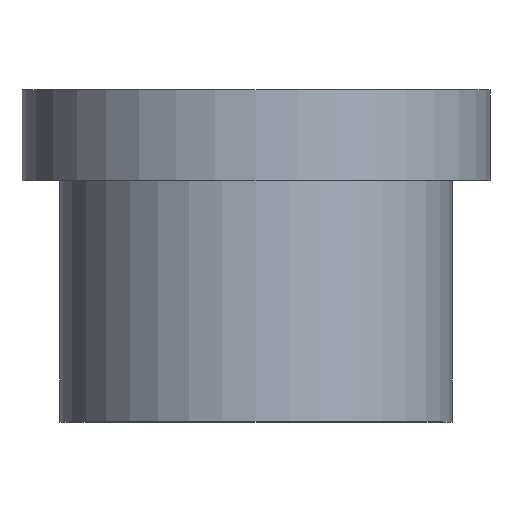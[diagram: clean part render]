
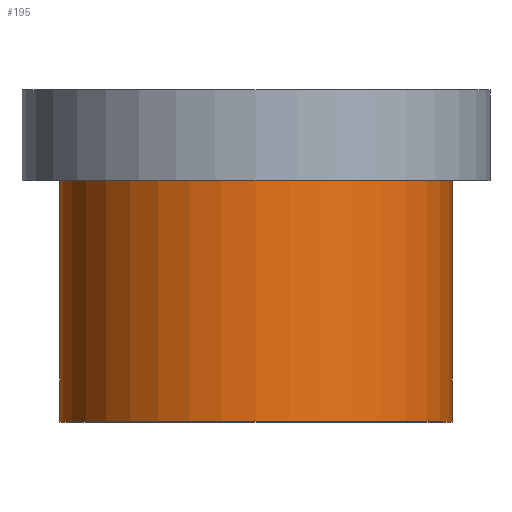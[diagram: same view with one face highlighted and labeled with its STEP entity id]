
A CAD part, top view. The second image highlights one B-rep face of the part: STEP entity #195.
In plain terms, the highlighted cylindrical face has radius 13 mm (diameter 26 mm), a full revolution.
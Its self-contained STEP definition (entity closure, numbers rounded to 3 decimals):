
#32=ORIENTED_EDGE('',*,*,#50,.T.);
#33=ORIENTED_EDGE('',*,*,#49,.F.);
#49=EDGE_CURVE('',#59,#59,#69,.T.);
#50=EDGE_CURVE('',#60,#60,#70,.T.);
#59=VERTEX_POINT('',#280);
#60=VERTEX_POINT('',#283);
#69=CIRCLE('',#213,13.);
#70=CIRCLE('',#215,13.);
#82=EDGE_LOOP('',(#32));
#83=EDGE_LOOP('',(#33));
#102=FACE_BOUND('',#82,.T.);
#103=FACE_BOUND('',#83,.T.);
#117=CYLINDRICAL_SURFACE('',#214,13.);
#195=ADVANCED_FACE('',(#102,#103),#117,.T.);
#213=AXIS2_PLACEMENT_3D('',#279,#241,#242);
#214=AXIS2_PLACEMENT_3D('',#281,#243,#244);
#215=AXIS2_PLACEMENT_3D('',#282,#245,#246);
#241=DIRECTION('',(0.,-1.,0.));
#242=DIRECTION('',(0.,0.,-1.));
#243=DIRECTION('',(0.,-1.,0.));
#244=DIRECTION('',(0.,0.,-1.));
#245=DIRECTION('',(0.,-1.,0.));
#246=DIRECTION('',(0.,0.,-1.));
#279=CARTESIAN_POINT('',(0.,0.,0.));
#280=CARTESIAN_POINT('',(0.,0.,-13.));
#281=CARTESIAN_POINT('',(0.,0.,0.));
#282=CARTESIAN_POINT('',(0.,16.,0.));
#283=CARTESIAN_POINT('',(0.,16.,-13.));
